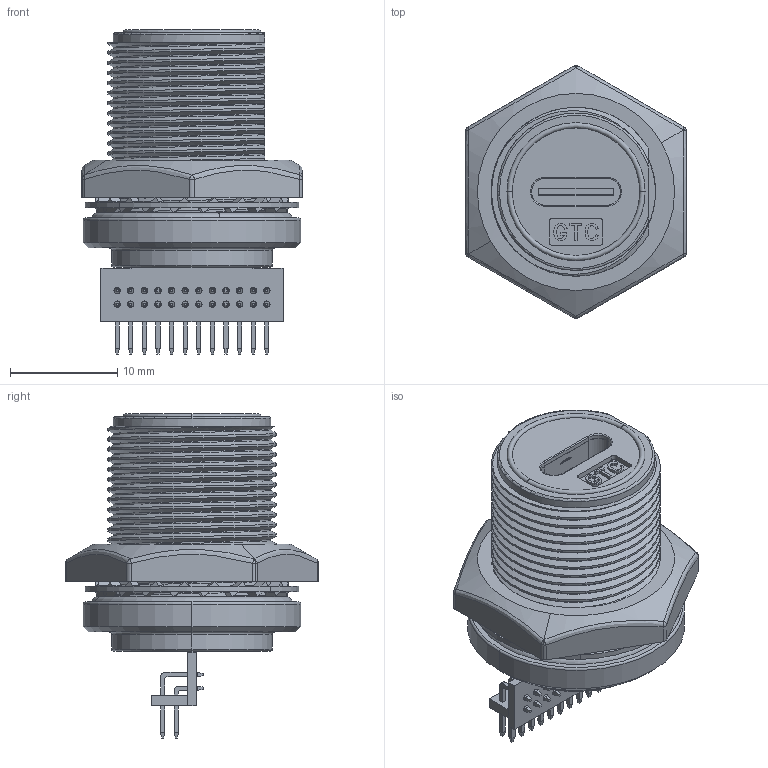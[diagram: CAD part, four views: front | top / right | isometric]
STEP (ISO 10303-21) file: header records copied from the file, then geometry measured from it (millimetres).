
FILE_DESCRIPTION (( 'STEP AP203' ), '1' );
FILE_NAME ('RR-21C300-10.STEP', '2025-02-14T06:25:32', ( '' ), ( '' ), 'SwSTEP 2.0', 'SolidWorks 2019', '' );
FILE_SCHEMA (( 'CONFIG_CONTROL_DESIGN' ));
Products named in the file (1): RR-21C300-10
Bounding box: 20.6 x 23.63 x 30.25 mm (x, y, z)
Volume: 5544.6 mm3; surface area: 6105.3 mm2
Topology: 5 solids, 7 shells, 1202 faces, 2986 edges, 1851 vertices
Faces by surface type: plane 769, cylinder 287, bspline 97, torus 25, sphere 14, cone 10
Entity records: 75542 total; most frequent: CARTESIAN_POINT 48349, ORIENTED_EDGE 5964, DIRECTION 5160, EDGE_CURVE 2982, VECTOR 1924, LINE 1924, VERTEX_POINT 1851, AXIS2_PLACEMENT_3D 1618
